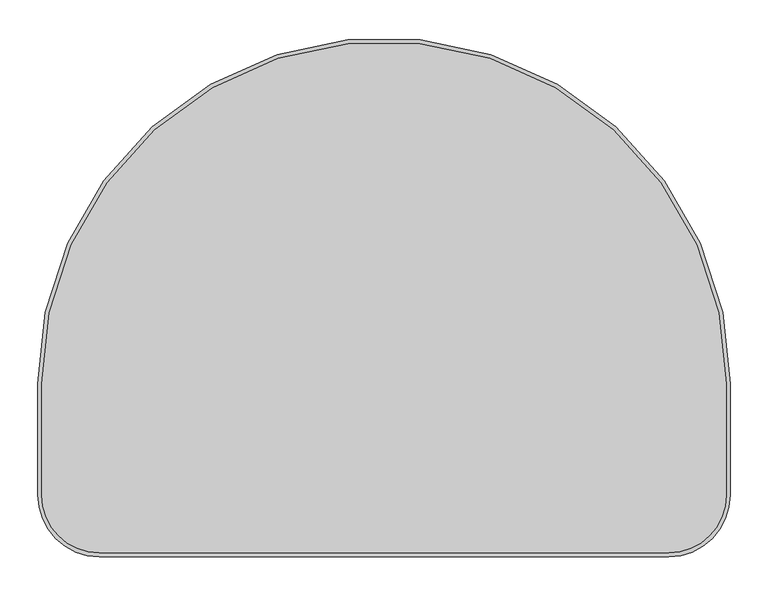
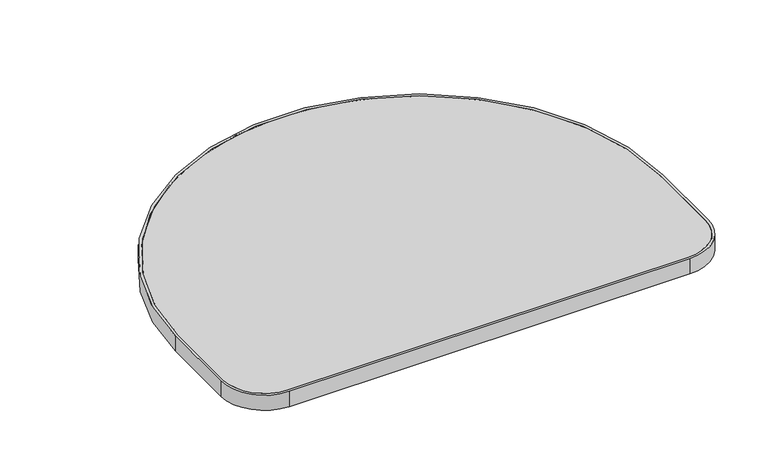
"""IFC4 building model written with IfcOpenShell, lengths in millimetres: furniture geometry, Steelcase - Answer Solution - Universal Table - Peninsular : 27D x 36W."""

from ifc_helpers import new_model, si_unit, point, frame, frame_2d, origin, place, context, project, spatial, polyline, circle_curve, trimmed, segment, composite_curve, outline, extrude, source, transform, mapped, element, save


def furniture_098f1aec(model_context):
    return source(origin(), model_context, "Body", "SweptSolid", [
        extrude(outline(composite_curve([segment(trimmed(circle_curve(frame_2d((0.0, 223.0198789)), 457.2), [point((-457.2, 223.0198789))], [point((457.2, 223.0198789))], False, "CARTESIAN"), True, "CONTINUOUS"), segment(polyline([(457.2, 223.0198789), (457.2, 76.2)]), True, "CONTINUOUS"), segment(trimmed(circle_curve(frame_2d((375.92, 76.2)), 81.28), [point((457.2, 76.2))], [point((375.92, -5.08))], False, "CARTESIAN"), True, "CONTINUOUS"), segment(polyline([(375.92, -5.08), (-375.92, -5.08)]), True, "CONTINUOUS"), segment(trimmed(circle_curve(frame_2d((-375.92, 76.2)), 81.28), [point((-375.92, -5.08))], [point((-457.2, 76.2))], False, "CARTESIAN"), True, "CONTINUOUS"), segment(polyline([(-457.2, 76.2), (-457.2, 223.0198789)]), True, "CONTINUOUS")], self_intersect=False), holes=[composite_curve([segment(trimmed(circle_curve(frame_2d((375.92, 76.2)), 76.2), [point((375.92, 0.0))], [point((452.12, 76.2))], True, "CARTESIAN"), True, "CONTINUOUS"), segment(polyline([(452.12, 76.2), (452.12, 223.0198789)]), True, "CONTINUOUS"), segment(trimmed(circle_curve(frame_2d((0.0, 223.0198789)), 452.12), [point((452.12, 223.0198789))], [point((-452.12, 223.0198789))], True, "CARTESIAN"), True, "CONTINUOUS"), segment(polyline([(-452.12, 223.0198789), (-452.12, 76.2)]), True, "CONTINUOUS"), segment(trimmed(circle_curve(frame_2d((-375.92, 76.2)), 76.2), [point((-452.12, 76.2))], [point((-375.92, 0.0))], True, "CARTESIAN"), True, "CONTINUOUS"), segment(polyline([(-375.92, 0.0), (375.92, 0.0)]), True, "CONTINUOUS")], self_intersect=False)]), frame((0.0, 0.0, 695.452), z_axis=(0.0, 0.0, 1.0), x_axis=(1.0, 0.0, 0.0)), (0.0, 0.0, 1.0), 30.0990349),
        extrude(outline(composite_curve([segment(trimmed(circle_curve(frame_2d((0.0, 223.0198789)), 452.12), [point((-452.12, 223.0198789))], [point((452.12, 223.0198789))], False, "CARTESIAN"), True, "CONTINUOUS"), segment(polyline([(452.12, 223.0198789), (452.12, 76.2)]), True, "CONTINUOUS"), segment(trimmed(circle_curve(frame_2d((375.92, 76.2)), 76.2), [point((452.12, 76.2))], [point((375.92, 0.0))], False, "CARTESIAN"), True, "CONTINUOUS"), segment(polyline([(375.92, 0.0), (-375.92, 0.0)]), True, "CONTINUOUS"), segment(trimmed(circle_curve(frame_2d((-375.92, 76.2)), 76.2), [point((-375.92, 0.0))], [point((-452.12, 76.2))], False, "CARTESIAN"), True, "CONTINUOUS"), segment(polyline([(-452.12, 76.2), (-452.12, 223.0198789)]), True, "CONTINUOUS")], self_intersect=False)), frame((0.0, 0.0, 695.452), z_axis=(0.0, 0.0, 1.0), x_axis=(1.0, 0.0, 0.0)), (0.0, 0.0, 1.0), 30.0990349),
    ])


if __name__ == "__main__":
    model = new_model("IFC4")
    model_context = context("Model", 3, world=origin())
    ifc_project = project(units=[si_unit("LENGTHUNIT", "METRE", prefix="MILLI")], contexts=[model_context])
    site = spatial("IfcSite", under=ifc_project)
    building = spatial("IfcBuilding", under=site)
    placement = place(None, origin())
    furniture_shape = furniture_098f1aec(model_context)
    element("IfcFurniture", 1, ObjectType="Steelcase - Answer Solution - Universal Table - Peninsular : 27D x 36W", at=placement, inside=building, context=model_context, shape_type="MappedRepresentation", body=[
        mapped(furniture_shape, transform((0.0, 0.0, 0.0), x_axis=(1.0, 0.0, 0.0), y_axis=(0.0, 1.0, 0.0), z_axis=(0.0, 0.0, 1.0))),
    ])
    save(model, "model.ifc")
